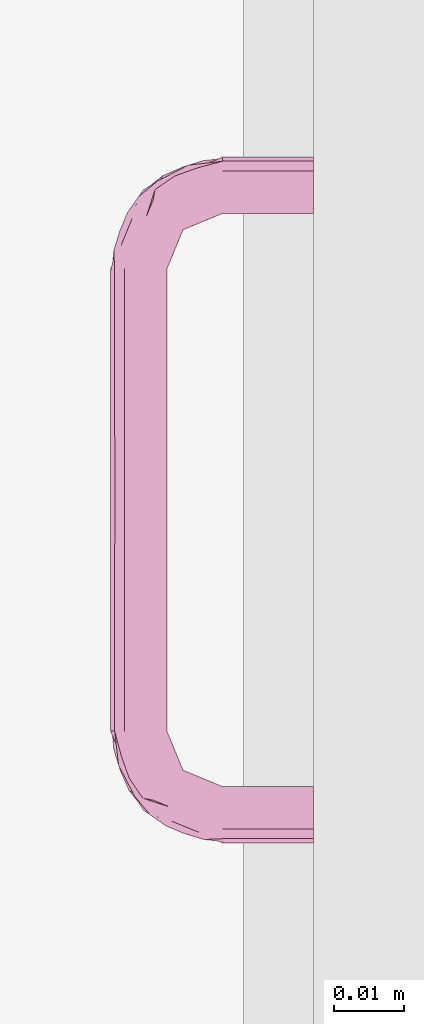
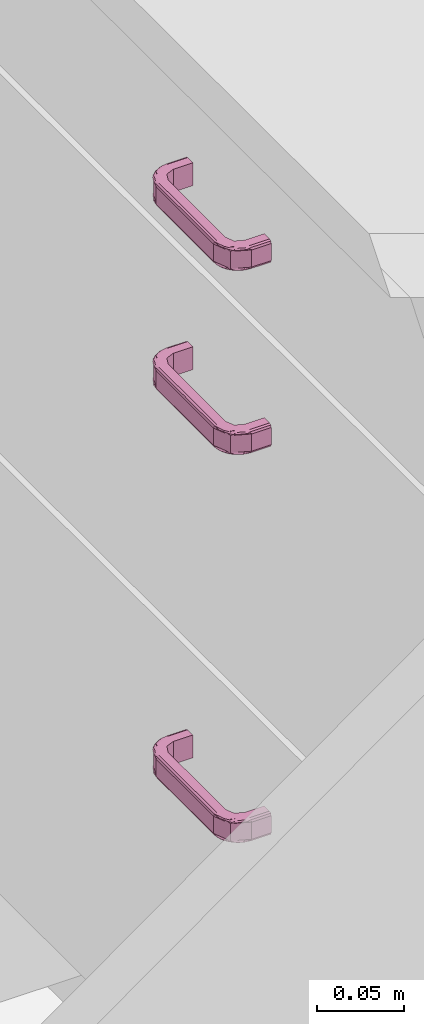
# One storey, part 52 of 65: 3 furnishings.
"""IFC2X3 building model written with IfcOpenShell, lengths in millimetres."""

import ifcopenshell
import ifcopenshell.guid

model = None  # the IFC model being written
_history = None  # IfcOwnerHistory: only IFC2X3 demands one
_inside = {}  # id of a spatial element -> (the spatial element, [elements in it])
_under = {}  # id of a project, library or spatial element -> (it, [spatial elements below it])
_declared = {}  # id of a project -> (the project, [libraries it declares])
_typed = {}  # id of a type object -> (the type object, [elements of that type])
_made_of = {}  # id of a material, layer set ... -> (it, [elements and type objects made of it])


def new_model(schema):
    """Start an empty IFC model of exactly this schema.

    Asked for "IFC4X3", IfcOpenShell would pick the latest addendum, in which some entities
    have other attributes; the version numbers below select the first issue.
    IFC2X3 requires an IfcOwnerHistory on every rooted entity: one is made here for all.
    """
    global model, _history
    if schema == "IFC4X3":
        model = ifcopenshell.file(schema_version=(4, 3, 0, 0))
    else:
        model = ifcopenshell.file(schema=schema)
    _inside.clear()
    _under.clear()
    _declared.clear()
    _typed.clear()
    _made_of.clear()
    _history = None
    if model.schema == "IFC2X3":
        org = make("IfcOrganization", Name="unknown")
        user = make(
            "IfcPersonAndOrganization",
            ThePerson=make("IfcPerson", FamilyName="unknown"),
            TheOrganization=org,
        )
        app = make(
            "IfcApplication",
            ApplicationDeveloper=org,
            Version="unknown",
            ApplicationFullName="unknown",
            ApplicationIdentifier="unknown",
        )
        _history = make(
            "IfcOwnerHistory",
            OwningUser=user,
            OwningApplication=app,
            ChangeAction="ADDED",
            CreationDate=0,
        )
    return model


def make(cls, **values):
    """One entity of the class cls with the attributes given. An attribute that is None is left unset."""
    return model.create_entity(
        cls, **{name: value for name, value in values.items() if value is not None}
    )


def entity(cls, *values):
    """Any entity or typed value of the class cls, its attributes in the order of the schema. None: left unset."""
    e = model.create_entity(cls)
    for i, value in enumerate(values):
        if value is not None:
            e[i] = value
    return e


def rooted(cls, **values):
    """An entity with a GlobalId (a new one), such as an element, a storey or a relation."""
    return make(cls, GlobalId=ifcopenshell.guid.new(), OwnerHistory=_history, **values)


def si_unit(unit_type, name, prefix=None):
    """IfcSIUnit, for example si_unit("LENGTHUNIT", "METRE", prefix="MILLI")."""
    return make("IfcSIUnit", UnitType=unit_type, Prefix=prefix, Name=name)


def converted_unit(unit_type, name, factor, base, dimensions=None, offset=None):
    """IfcConversionBasedUnit, such as the inch: factor (a typed value) times the base unit."""
    return make(
        "IfcConversionBasedUnit"
        if offset is None
        else "IfcConversionBasedUnitWithOffset",
        ConversionOffset=offset,
        Dimensions=None
        if dimensions is None
        else entity("IfcDimensionalExponents", *dimensions),
        UnitType=unit_type,
        Name=name,
        ConversionFactor=make(
            "IfcMeasureWithUnit", ValueComponent=factor, UnitComponent=base
        ),
    )


def assignment(units):
    """IfcUnitAssignment: the units of a project."""
    return None if units is None else make("IfcUnitAssignment", Units=units)


def point(xyz):
    """IfcCartesianPoint."""
    return None if xyz is None else make("IfcCartesianPoint", Coordinates=xyz)


def direction(xyz):
    """IfcDirection."""
    return None if xyz is None else make("IfcDirection", DirectionRatios=xyz)


def frame(location, z_axis=None, x_axis=None):
    """IfcAxis2Placement3D, a coordinate frame: its origin and axes. An axis left out is left unset."""
    return make(
        "IfcAxis2Placement3D",
        Location=point(location),
        Axis=direction(z_axis),
        RefDirection=direction(x_axis),
    )


def origin():
    """The frame at (0, 0, 0) with its axes left unset."""
    return frame((0.0, 0.0, 0.0))


def place(relative_to, where):
    """IfcLocalPlacement: puts the frame where relative to a parent placement (None: the world)."""
    return make(
        "IfcLocalPlacement", PlacementRelTo=relative_to, RelativePlacement=where
    )


def context(
    kind, dimensions, precision=None, world=None, true_north=None, identifier=None
):
    """IfcGeometricRepresentationContext, for example the 3D "Model" context."""
    return make(
        "IfcGeometricRepresentationContext",
        ContextIdentifier=identifier,
        ContextType=kind,
        CoordinateSpaceDimension=dimensions,
        Precision=precision,
        WorldCoordinateSystem=world,
        TrueNorth=true_north,
    )


def subcontext(parent, identifier, kind, view, scale=None):
    """IfcGeometricRepresentationSubContext, for example "Body" below "Model"."""
    return make(
        "IfcGeometricRepresentationSubContext",
        ContextIdentifier=identifier,
        ContextType=kind,
        ParentContext=parent,
        TargetScale=scale,
        TargetView=view,
    )


def project(units=None, contexts=None):
    """IfcProject with its units and contexts."""
    return rooted(
        "IfcProject",
        Name="project",
        RepresentationContexts=contexts,
        UnitsInContext=assignment(units),
    )


def spatial(cls, under=None, at=None, **own):
    """A site, building, storey or space (cls), placed at a placement, below another one or the project."""
    s = rooted(cls, ObjectPlacement=at, **own)
    if under is not None:
        _under.setdefault(under.id(), (under, []))[1].append(s)
    return s


def faces_of(points, faces, orient=None, outer=None):
    """IfcFace entities. A face is a list of loops; a loop is a list of indices into points, from 0.

    orient and outer hold one flag for each loop. By default every Orientation is true, the
    first loop of a face is its IfcFaceOuterBound and the others are IfcFaceBound.
    """
    made = []
    for i, loops in enumerate(faces):
        bounds = []
        for j, loop in enumerate(loops):
            is_outer = j == 0 if outer is None else outer[i][j]
            bounds.append(
                make(
                    "IfcFaceOuterBound" if is_outer else "IfcFaceBound",
                    Bound=make("IfcPolyLoop", Polygon=[points[k] for k in loop]),
                    Orientation=True if orient is None else orient[i][j],
                )
            )
        made.append(make("IfcFace", Bounds=bounds))
    return made


def faceted_brep(points, faces, orient=None, outer=None, voids=None):
    """IfcFacetedBrep: a solid bounded by flat faces; with voids (closed shells), ...WithVoids."""
    shared = [point(p) for p in points]
    hull = make("IfcClosedShell", CfsFaces=faces_of(shared, faces, orient, outer))
    if voids is None:
        return make("IfcFacetedBrep", Outer=hull)
    return make(
        "IfcFacetedBrepWithVoids",
        Outer=hull,
        Voids=[
            make(cls, CfsFaces=faces_of(shared, fs, o, b)) for cls, fs, o, b in voids
        ],
    )


def shape(context_of_items, identifier, shape_type, items):
    """IfcShapeRepresentation: the items that make up one representation, for example the "Body"."""
    return make(
        "IfcShapeRepresentation",
        ContextOfItems=context_of_items,
        RepresentationIdentifier=identifier,
        RepresentationType=shape_type,
        Items=items,
    )


def source(mapping_origin, context_of_items, identifier, shape_type, items):
    """IfcRepresentationMap: a shape defined once, which mapped items show again and again."""
    return make(
        "IfcRepresentationMap",
        MappingOrigin=mapping_origin,
        MappedRepresentation=shape(context_of_items, identifier, shape_type, items),
    )


def transform(
    local_origin,
    x_axis=None,
    y_axis=None,
    z_axis=None,
    scale=None,
    scale2=None,
    scale3=None,
    uniform=True,
):
    """IfcCartesianTransformationOperator3D, or its non-uniform kind. x_axis, y_axis, z_axis: its Axis1, 2, 3."""
    if uniform:
        return make(
            "IfcCartesianTransformationOperator3D",
            Axis1=direction(x_axis),
            Axis2=direction(y_axis),
            LocalOrigin=point(local_origin),
            Scale=scale,
            Axis3=direction(z_axis),
        )
    return make(
        "IfcCartesianTransformationOperator3DnonUniform",
        Axis1=direction(x_axis),
        Axis2=direction(y_axis),
        LocalOrigin=point(local_origin),
        Scale=scale,
        Axis3=direction(z_axis),
        Scale2=scale2,
        Scale3=scale3,
    )


def mapped(mapping_source, mapping_target):
    """IfcMappedItem: shows the shape of a source again, moved by a transform."""
    return make(
        "IfcMappedItem", MappingSource=mapping_source, MappingTarget=mapping_target
    )


def material(Name=None, Category=None):
    """IfcMaterial."""
    return make("IfcMaterial", Name=Name, Category=Category)


def made_of(thing, what):
    """Note that an element or type object is made of a material, layer set ...; save() writes the relation."""
    if what is not None:
        _made_of.setdefault(what.id(), (what, []))[1].append(thing)
    return thing


def type_object(cls, material=None, **own):
    """A type object (cls), such as IfcWallType, which elements share."""
    return made_of(rooted(cls, **own), material)


def type_shapes(of_type, sources):
    """Give a type object the sources (RepresentationMaps) that its elements show as mapped items."""
    of_type.RepresentationMaps = sources


def element(
    cls,
    number,
    at=None,
    inside=None,
    cuts=None,
    type_object=None,
    material=None,
    context=None,
    identifier="Body",
    shape_type=None,
    held_by="IfcProductDefinitionShape",
    body=None,
    shapes=None,
    **own,
):
    """One element of the class cls, such as IfcWall. Its Tag is "e" and its number.

    at: its placement. inside: the storey or other place that contains it. cuts: it is an
    opening in that element (IfcRelVoidsElement). A single representation is given by context,
    identifier, shape_type and body (its items); several are given by shapes. held_by: the class
    of the entity that holds the representations. save() writes the other relations.
    """
    e = rooted(cls, Tag="e%d" % number, ObjectPlacement=at, **own)
    if body is not None:
        shapes = [shape(context, identifier, shape_type, body)]
    if shapes is not None:
        e.Representation = make(held_by, Representations=shapes)
    if inside is not None:
        _inside.setdefault(inside.id(), (inside, []))[1].append(e)
    if cuts is not None:
        rooted(
            "IfcRelVoidsElement", RelatingBuildingElement=cuts, RelatedOpeningElement=e
        )
    if type_object is not None:
        _typed.setdefault(type_object.id(), (type_object, []))[1].append(e)
    return made_of(e, material)


def aggregate(whole, parts):
    """IfcRelAggregates: a whole, such as a stair, and the parts it consists of."""
    return rooted("IfcRelAggregates", RelatingObject=whole, RelatedObjects=parts)


def save(model, path):
    """Write the relations noted so far, then the file.

    IfcRelAggregates (storeys below a building ...), IfcRelContainedInSpatialStructure (elements
    in a storey), IfcRelDefinesByType, IfcRelAssociatesMaterial and IfcRelDeclares: one each for
    every whole, place, type object, material and project.
    """
    for whole, parts in _under.values():
        aggregate(whole, parts)
    for where, things in _inside.values():
        rooted(
            "IfcRelContainedInSpatialStructure",
            RelatedElements=things,
            RelatingStructure=where,
        )
    for kind, things in _typed.values():
        rooted("IfcRelDefinesByType", RelatedObjects=things, RelatingType=kind)
    for what, things in _made_of.values():
        rooted("IfcRelAssociatesMaterial", RelatedObjects=things, RelatingMaterial=what)
    for by, libraries in _declared.values():
        rooted("IfcRelDeclares", RelatingContext=by, RelatedDefinitions=libraries)
    model.write(path)


model = new_model("IFC2X3")

# Units and contexts
model_context = context("Model", 3, precision=0.01, world=origin(), true_north=direction((0.0, 1.0)))
body_context = subcontext(model_context, "Body", "Model", "MODEL_VIEW")
ifc_project = project(units=[si_unit("LENGTHUNIT", "METRE", prefix="MILLI"), si_unit("AREAUNIT", "SQUARE_METRE"), si_unit("VOLUMEUNIT", "CUBIC_METRE"), converted_unit("PLANEANGLEUNIT", "DEGREE", entity("IfcPlaneAngleMeasure", 0.017453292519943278), si_unit("PLANEANGLEUNIT", "RADIAN"), dimensions=[0, 0, 0, 0, 0, 0, 0])], contexts=[model_context])

# Site, building, storey, space
site_placement = place(None, origin())
site = spatial("IfcSite", under=ifc_project, at=site_placement, Name="Default", CompositionType="ELEMENT")
building_placement = place(site_placement, origin())
building = spatial("IfcBuilding", under=site, at=building_placement, CompositionType="ELEMENT")
storey_placement = place(building_placement, origin())
storey = spatial("IfcBuildingStorey", under=building, at=storey_placement, Name="Et. 1", CompositionType="ELEMENT", Elevation=0.0)
space_placement = place(storey_placement, origin())
space = spatial("IfcSpace", under=storey, at=space_placement, Name="113", CompositionType="ELEMENT", InteriorOrExteriorSpace="INTERNAL")

# Furnishings
ifc_material = material(Name="Focus - Kjøkken - Håndtak")
furniture_type = type_object("IfcFurnitureType", Name="Focus - Håndtak Skuff:Håndtak skuff", AssemblyPlace="NOTDEFINED", material=ifc_material)
shared_shape = source(origin(), body_context, "Body", "Brep", [
    faceted_brep([(-49.01997065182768, 0.0, -6.018434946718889), (-49.02222703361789, 0.0, 5.981564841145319), (-48.436706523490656, 0.0, 7.395888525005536), (-47.022603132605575, 0.0, 7.981940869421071), (-40.98040382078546, 0.0, 7.983076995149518), (-40.97739531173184, 0.0, -8.0169227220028), (-47.01959462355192, 0.0, -8.018058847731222), (-48.433918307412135, 0.0, -7.432538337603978), (47.022603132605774, 0.0, -8.000375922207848), (40.980403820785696, 0.0, -8.001512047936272), (40.97739531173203, 0.0, 7.9984876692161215), (47.01959462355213, 0.0, 7.999623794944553), (48.43391830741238, 0.0, 7.414103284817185), (49.01997065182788, 0.0, 5.999999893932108), (49.02222703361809, 0.0, -5.9999998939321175), (48.436706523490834, 0.0, -7.414323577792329), (-49.02222703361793, -13.0, 5.981564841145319), (-48.43670652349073, -13.0, 7.395888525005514), (-47.72965482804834, -13.0, 7.688914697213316), (-47.022603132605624, -13.0, 7.981940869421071), (-45.53091023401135, -16.601265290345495, 7.982221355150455), (-44.22341420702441, -19.757839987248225, 7.982467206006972), (-42.91591818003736, -22.91441468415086, 7.9827130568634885), (-40.437314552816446, -23.941085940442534, 7.983179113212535), (-37.95871092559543, -24.967757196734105, 7.983645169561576), (-35.48010729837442, -25.99442845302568, 7.9841112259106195), (-33.0015036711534, -27.02109970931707, 7.984577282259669), (-20.656464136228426, -27.021099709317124, 7.9868985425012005), (-8.311424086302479, -27.02109970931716, 7.989219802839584), (2.0160558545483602, -27.02109970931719, 7.991161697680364), (12.343535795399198, -27.02109970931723, 7.993103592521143), (20.653455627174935, -27.02109970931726, 7.9946661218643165), (32.9984951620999, -27.021099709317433, 7.996987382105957), (36.599760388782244, -25.529406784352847, 7.997664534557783), (39.75633502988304, -24.221910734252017, 7.9982580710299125), (42.912909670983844, -22.914414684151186, 7.998851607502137), (43.939580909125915, -20.435811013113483, 7.9990446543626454), (44.966252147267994, -17.957207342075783, 7.999237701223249), (45.99292338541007, -15.478603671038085, 7.999430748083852), (47.01959462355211, -13.0, 7.9996237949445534), (40.97739531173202, -13.0, 7.998487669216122), (38.64042956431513, -18.64193450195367, 7.998048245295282), (32.998495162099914, -20.97890029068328, 7.996987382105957), (-33.00150367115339, -20.978900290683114, 7.984577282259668), (-38.64343807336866, -18.64193450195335, 7.983516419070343), (-40.980403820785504, -13.0, 7.983076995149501), (-40.97739531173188, -13.0, -8.016922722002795), (47.022603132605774, -13.0, -8.000375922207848), (45.53091021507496, -16.601265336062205, -8.000656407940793), (44.2234141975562, -19.757840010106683, -8.000902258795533), (42.915918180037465, -22.914414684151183, -8.001148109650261), (40.43731455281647, -23.941085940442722, -8.001614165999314), (37.95871092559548, -24.967757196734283, -8.002080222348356), (35.4801072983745, -25.994428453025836, -8.002546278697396), (33.00150367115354, -27.021099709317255, -8.003012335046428), (20.656463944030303, -27.021099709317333, -8.005333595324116), (10.32898409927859, -27.02109970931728, -8.007275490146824), (0.0015042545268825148, -27.021099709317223, -8.009217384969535), (-10.325975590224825, -27.021099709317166, -8.011159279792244), (-20.653455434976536, -27.02109970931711, -8.013101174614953), (-32.998495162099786, -27.021099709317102, -8.01542243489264), (-36.599760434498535, -25.52940676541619, -8.016099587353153), (-39.75633505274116, -24.221910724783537, -8.016693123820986), (-42.91290967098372, -22.91441468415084, -8.017286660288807), (-43.939580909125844, -20.435811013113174, -8.01747970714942), (-44.966252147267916, -17.957207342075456, -8.017672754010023), (-45.992923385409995, -15.478603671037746, -8.017865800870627), (-47.01959462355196, -13.0, -8.01805884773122), (-38.64042956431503, -18.64193450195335, -8.01648329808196), (-32.99849516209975, -20.97890029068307, -8.01542243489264), (33.001503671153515, -20.978900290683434, -8.003012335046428), (38.64343807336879, -18.641934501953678, -8.00195147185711), (40.980403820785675, -13.0, -8.001512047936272), (-48.4339183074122, -13.0, -7.4325383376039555), (-48.80321719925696, -13.0, -6.541445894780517), (-49.0199706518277, -13.0, -6.018434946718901), (-44.41297448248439, -22.641402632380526, 7.75925959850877), (-46.35897290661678, -19.75591674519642, 7.743265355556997), (-40.20740985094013, -25.95405539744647, 7.81524837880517), (-44.3297556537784, -24.328628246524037, 5.9824471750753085), (-42.26670687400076, -25.1831710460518, 5.982835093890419), (-43.381530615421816, -25.002953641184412, 6.747992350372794), (-46.0388412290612, -20.202530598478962, 5.982125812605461), (-45.57655804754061, -22.341444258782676, 7.121035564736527), (-47.86558988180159, -17.923500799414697, 7.130313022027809), (-38.60103139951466, -27.651919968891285, 7.092454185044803), (-40.20365809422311, -26.037713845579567, 5.98322301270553), (-38.66544163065, -26.674863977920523, 5.983512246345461), (-36.60239285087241, -27.529406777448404, 5.983900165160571), (-41.08758750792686, -26.597477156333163, 6.856637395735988), (-41.49759864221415, -25.501746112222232, 5.982979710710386), (-36.52529670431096, -27.454202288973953, 7.791261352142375), (-47.50416098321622, -16.529274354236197, 7.765454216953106), (-47.530534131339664, -16.601265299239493, 5.981845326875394), (-42.18138620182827, -25.408731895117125, 7.397064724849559), (-45.50287349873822, -21.49647118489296, 5.982226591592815), (-33.00122595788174, -28.80444460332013, 6.5076290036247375), (-35.69791310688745, -28.538770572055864, 6.952460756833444), (-35.83328461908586, -27.847981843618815, 5.984044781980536), (-33.00112760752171, -29.021099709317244, 5.984577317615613), (-33.001393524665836, -28.435313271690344, 7.398790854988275), (-46.675991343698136, -18.66431412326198, 5.98200600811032), (-47.5282777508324, -16.601265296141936, -6.018154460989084), (-47.84685280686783, -15.832157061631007, -6.018214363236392), (-36.527810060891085, -27.502698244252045, -7.799689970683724), (-39.75445657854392, -26.35751445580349, -7.77789246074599), (-47.6505824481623, -18.599695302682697, -7.127107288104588), (-46.03658484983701, -20.202530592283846, -6.017873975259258), (-46.67373496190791, -18.66431412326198, -6.017993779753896), (-47.70896034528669, -16.048754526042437, -7.749127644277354), (-46.59154452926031, -19.340507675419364, -7.762569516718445), (-46.373359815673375, -21.540484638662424, -6.783304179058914), (-45.18204206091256, -22.26557941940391, -6.017713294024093), (-45.500617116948, -21.49647118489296, -6.017773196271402), (-37.92215596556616, -27.864246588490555, -7.16487889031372), (-42.34010114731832, -25.57521654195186, -7.156001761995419), (-40.20140170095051, -26.037713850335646, -6.016776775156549), (-45.407337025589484, -22.179992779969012, -7.431969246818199), (-42.63993947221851, -24.41151305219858, -7.794063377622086), (-44.52051892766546, -23.855367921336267, -6.870601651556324), (-32.998605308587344, -28.43531327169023, -7.429636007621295), (-36.600136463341, -27.529406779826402, -6.016099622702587), (-41.49534226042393, -25.501746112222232, -6.0170200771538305), (-44.327499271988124, -24.32862824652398, -6.017552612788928), (-32.99855023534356, -27.728206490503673, -7.7225292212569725), (-48.53745944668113, -15.696603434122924, -6.986734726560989), (-32.99887122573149, -29.021099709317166, -6.015422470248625), (-38.663185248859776, -26.674863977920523, -6.016487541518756), (-15.492613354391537, -28.43531328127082, 7.402083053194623), (20.6538311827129, -29.021099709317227, 5.994666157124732), (32.99860530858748, -28.435313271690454, 7.4112009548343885), (16.49860559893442, -28.435313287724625, 7.408098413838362), (-3.14758080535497, -28.397558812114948, 7.441176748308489), (32.99855023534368, -27.728206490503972, 7.704094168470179), (32.99887122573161, -29.02109970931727, 5.996987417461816), (-20.65608796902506, -29.0210997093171, 5.986898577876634), (-10.328607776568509, -29.02109970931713, 5.988840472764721), (10.326351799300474, -29.02109970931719, 5.99272426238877), (-0.0011279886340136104, -29.021099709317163, 5.990782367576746), (-15.489824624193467, -28.435313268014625, -7.426343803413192), (-8.308791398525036, -29.02109970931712, -6.010779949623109), (-20.653831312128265, -29.02109970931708, -6.013101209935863), (20.656087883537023, -29.021099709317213, -6.005333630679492), (12.346168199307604, -29.02109970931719, -6.006896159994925), (2.0186884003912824, -29.021099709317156, -6.008838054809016), (16.501393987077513, -28.435313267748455, -7.42032843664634), (33.001393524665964, -28.43531327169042, -7.417225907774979), (33.00122595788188, -28.80444460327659, -6.526064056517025), (33.00112760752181, -29.021099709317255, -6.003012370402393), (-3.1447921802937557, -28.47208571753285, -7.386268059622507), (42.6399395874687, -24.41151297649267, 7.7756283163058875), (39.75445668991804, -26.3575143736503, 7.759457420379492), (45.95258191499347, -20.20593789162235, 7.831449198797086), (44.32749927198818, -24.328628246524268, 5.999117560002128), (45.18204205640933, -22.26557943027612, 5.999278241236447), (45.00168074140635, -23.380259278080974, 6.764611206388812), (40.20140169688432, -26.03771385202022, 5.998341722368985), (42.340101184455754, -25.575216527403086, 7.137566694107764), (37.9221559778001, -27.86424657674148, 7.146443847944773), (47.65058242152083, -18.599695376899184, 7.108672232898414), (46.03658484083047, -20.20253061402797, 5.999438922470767), (46.67373496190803, -18.664314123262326, 5.999558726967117), (47.528277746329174, -16.60126530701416, 5.9997194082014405), (46.596183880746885, -21.08629578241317, 6.8731247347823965), (45.500617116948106, -21.4964711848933, 5.999338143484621), (47.452733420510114, -16.52382932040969, 7.8070518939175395), (36.52781014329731, -27.502698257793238, 7.781254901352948), (36.60013646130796, -27.52940678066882, 5.997664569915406), (45.40733698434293, -22.17999283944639, 7.413534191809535), (41.49534226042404, -25.501746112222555, 5.998585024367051), (48.80321719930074, -13.0, 6.523010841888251), (48.53745943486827, -15.696603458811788, 6.968299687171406), (47.84685280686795, -15.832157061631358, 5.999779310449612), (49.01997065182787, -13.0, 5.999999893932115), (48.43391830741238, -13.0, 7.414103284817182), (38.66318524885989, -26.674863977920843, 5.998052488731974), (36.60239284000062, -27.52940678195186, -6.002335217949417), (35.83328461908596, -27.847981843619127, -6.002479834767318), (47.504160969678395, -16.529274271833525, -7.783889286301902), (46.35897298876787, -19.755916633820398, -7.761700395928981), (38.60103132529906, -27.651919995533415, -7.110889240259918), (40.20365807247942, -26.037713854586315, -6.00165806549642), (38.66544163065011, -26.67486397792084, -6.001947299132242), (36.050207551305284, -27.710414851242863, -7.733378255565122), (39.34196320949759, -26.593001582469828, -7.746411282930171), (41.54175600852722, -26.374632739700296, -6.766773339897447), (42.26670686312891, -25.183171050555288, -6.001270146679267), (41.49759864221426, -25.501746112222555, -6.001414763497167), (47.86558989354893, -17.923500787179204, -7.148748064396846), (45.57655806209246, -22.341444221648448, -7.139470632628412), (46.03884122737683, -20.20253060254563, -6.000560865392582), (42.18138614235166, -25.408731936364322, -7.415499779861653), (44.412974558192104, -22.64140251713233, -7.777694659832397), (43.85665573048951, -24.521808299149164, -6.85398393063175), (48.436706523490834, -13.0, -7.414323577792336), (47.530534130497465, -16.601265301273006, -6.000280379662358), (45.50287349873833, -21.496471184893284, -6.000661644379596), (44.3297556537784, -24.32862824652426, -6.000882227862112), (47.729654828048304, -13.0, -7.707349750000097), (35.697913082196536, -28.538770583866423, -6.9708957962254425), (49.02222703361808, -13.0, -5.999999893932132), (46.675991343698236, -18.6643141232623, -6.000441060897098)], [[[0, 1, 2, 3, 4, 5, 6, 7]], [[8, 9, 10, 11, 12, 13, 14, 15]], [[16, 17, 2, 1]], [[2, 17, 18, 19, 3]], [[4, 3, 19, 20, 21, 22, 23, 24, 25, 26, 27, 28, 29, 30, 31, 32, 33, 34, 35, 36, 37, 38, 39, 11, 10, 40, 41, 42, 43, 44, 45]], [[5, 4, 45, 46]], [[9, 8, 47, 48, 49, 50, 51, 52, 53, 54, 55, 56, 57, 58, 59, 60, 61, 62, 63, 64, 65, 66, 67, 6, 5, 46, 68, 69, 70, 71, 72]], [[67, 73, 7, 6]], [[7, 73, 74, 75, 0]], [[1, 0, 75, 16]], [[76, 21, 77]], [[78, 24, 23]], [[79, 80, 81]], [[82, 83, 84]], [[85, 86, 87, 88]], [[89, 80, 90, 86]], [[91, 24, 78]], [[92, 77, 20]], [[17, 93, 84]], [[94, 89, 85]], [[83, 82, 95, 79]], [[88, 96, 97]], [[77, 84, 83]], [[23, 76, 78]], [[89, 94, 81]], [[22, 76, 23]], [[92, 17, 84]], [[19, 18, 17, 92]], [[96, 88, 98, 99]], [[100, 26, 91]], [[76, 77, 83]], [[20, 19, 92]], [[94, 76, 83]], [[21, 76, 22]], [[21, 20, 77]], [[84, 77, 92]], [[93, 17, 16]], [[84, 93, 101, 82]], [[94, 83, 81]], [[83, 79, 81]], [[80, 89, 81]], [[86, 85, 89]], [[76, 94, 78]], [[94, 85, 78]], [[91, 78, 85]], [[85, 97, 91]], [[91, 26, 25, 24]], [[97, 96, 100]], [[91, 97, 100]], [[88, 97, 85]], [[44, 68, 46, 45]], [[43, 69, 68, 44]], [[74, 102, 103, 75]], [[104, 105, 61]], [[106, 107, 108, 102]], [[109, 110, 106]], [[111, 112, 113, 107]], [[105, 114, 115]], [[115, 114, 116]], [[110, 64, 117]], [[118, 62, 105]], [[106, 110, 117]], [[117, 119, 111]], [[120, 121, 114]], [[115, 116, 122, 123]], [[112, 111, 119]], [[111, 106, 117]], [[63, 118, 64]], [[104, 120, 114]], [[60, 124, 120, 104]], [[109, 125, 73]], [[125, 109, 106]], [[118, 105, 115]], [[61, 60, 104]], [[118, 115, 119]], [[62, 118, 63]], [[62, 61, 105]], [[114, 105, 104]], [[121, 120, 126]], [[114, 121, 127, 116]], [[106, 111, 107]], [[118, 119, 117]], [[115, 123, 119]], [[112, 119, 123]], [[64, 118, 117]], [[125, 74, 73]], [[102, 74, 125]], [[102, 125, 106]], [[73, 67, 109]], [[66, 65, 64, 110]], [[110, 109, 66]], [[109, 67, 66]], [[122, 116, 127, 121, 126, 99, 98, 88, 87, 86, 90, 80, 79, 123]], [[79, 95, 82, 101, 93, 16, 75, 103, 102, 108, 107, 113, 112, 123]], [[128, 27, 100]], [[129, 130, 131]], [[29, 132, 131]], [[31, 130, 133, 32]], [[27, 26, 100]], [[129, 134, 130]], [[135, 100, 96, 99]], [[128, 100, 135, 136]], [[31, 30, 29, 131]], [[136, 132, 128]], [[31, 131, 130]], [[28, 27, 128]], [[132, 137, 131]], [[28, 132, 29]], [[136, 138, 137, 132]], [[28, 128, 132]], [[137, 129, 131]], [[69, 43, 42, 70]], [[139, 140, 141, 126, 120]], [[142, 143, 144, 145, 146, 147, 148]], [[55, 146, 145, 56]], [[139, 59, 58]], [[144, 149, 145]], [[55, 54, 146]], [[139, 120, 124, 60, 59]], [[58, 149, 139]], [[149, 56, 145]], [[140, 149, 144]], [[58, 57, 56, 149]], [[140, 139, 149]], [[126, 141, 140, 144, 143, 142, 148, 134, 129, 137, 138, 136, 135, 99]], [[150, 34, 151]], [[152, 37, 36]], [[153, 154, 155]], [[156, 157, 158]], [[159, 160, 161, 162]], [[163, 154, 164, 160]], [[165, 37, 152]], [[166, 151, 33]], [[130, 167, 158]], [[168, 163, 159]], [[157, 156, 169, 153]], [[162, 170, 171]], [[151, 158, 157]], [[36, 150, 152]], [[163, 168, 155]], [[35, 150, 36]], [[166, 130, 158]], [[32, 133, 130, 166]], [[170, 162, 172, 173]], [[174, 39, 165]], [[150, 151, 157]], [[33, 32, 166]], [[168, 150, 157]], [[34, 150, 35]], [[34, 33, 151]], [[158, 151, 166]], [[167, 130, 134]], [[158, 167, 175, 156]], [[168, 157, 155]], [[157, 153, 155]], [[154, 163, 155]], [[160, 159, 163]], [[150, 168, 152]], [[168, 159, 152]], [[165, 152, 159]], [[159, 171, 165]], [[165, 39, 38, 37]], [[171, 170, 174]], [[165, 171, 174]], [[162, 171, 159]], [[41, 71, 70, 42]], [[40, 72, 71, 41]], [[147, 176, 177, 148]], [[178, 179, 48]], [[180, 181, 182, 176]], [[183, 184, 180]], [[185, 186, 187, 181]], [[179, 188, 189]], [[189, 188, 190]], [[184, 51, 191]], [[192, 49, 179]], [[180, 184, 191]], [[191, 193, 185]], [[194, 195, 188]], [[189, 190, 196, 197]], [[186, 185, 193]], [[193, 191, 192]], [[50, 192, 51]], [[178, 194, 188]], [[47, 198, 194, 178]], [[183, 199, 146]], [[199, 183, 180]], [[192, 179, 189]], [[48, 47, 178]], [[192, 189, 193]], [[49, 192, 50]], [[49, 48, 179]], [[188, 179, 178]], [[195, 194, 200]], [[188, 195, 201, 190]], [[181, 180, 185]], [[180, 191, 185]], [[189, 197, 193]], [[186, 193, 197]], [[51, 192, 191]], [[199, 147, 146]], [[176, 147, 199]], [[176, 199, 180]], [[146, 54, 183]], [[53, 52, 51, 184]], [[184, 183, 53]], [[183, 54, 53]], [[196, 190, 201, 195, 200, 173, 172, 162, 161, 160, 164, 154, 153, 197]], [[153, 169, 156, 175, 167, 134, 148, 177, 176, 182, 181, 187, 186, 197]], [[13, 12, 174, 170, 173]], [[174, 12, 11, 39]], [[72, 40, 10, 9]], [[8, 15, 194, 198, 47]], [[194, 15, 14, 200]], [[173, 200, 14, 13]]]),
])
type_shapes(furniture_type, [shared_shape])
for number, where, z_axis, x_axis, name in (
    (1, (33329.009586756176, 9654.180957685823, 805.0), (0.0, 0.0, 1.0), (0.0, -1.0, 0.0), "Focus - Håndtak Skuff:Håndtak skuff"),
    (2, (33329.009586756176, 9654.180957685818, 676.0), (0.0, 0.0, 1.0), (0.0, -1.0, 0.0), "Focus - Håndtak Skuff:Håndtak skuff"),
    (3, (33329.009586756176, 9654.180957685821, 404.0), (0.0, 0.0, 1.0), (0.0, -1.0, 0.0), "Focus - Håndtak Skuff:Håndtak skuff"),
):
    element("IfcFurnishingElement", number, at=place(space_placement, frame(where, z_axis=z_axis, x_axis=x_axis)), inside=space, type_object=furniture_type, material=ifc_material, Name=name, context=body_context, shape_type="MappedRepresentation", body=[
        mapped(shared_shape, transform((0.0, 0.0, 0.0), scale=1.0)),
    ])

save(model, "model.ifc")
